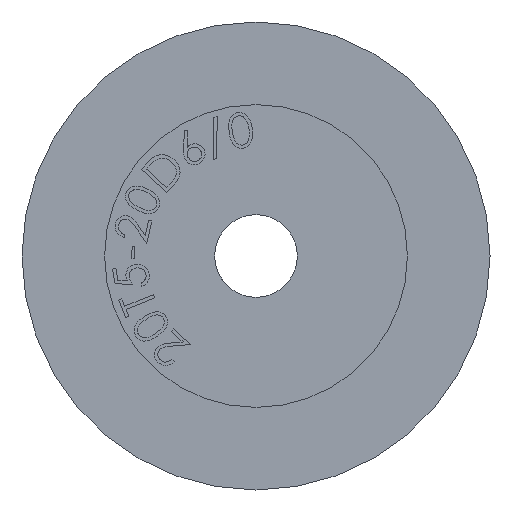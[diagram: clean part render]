
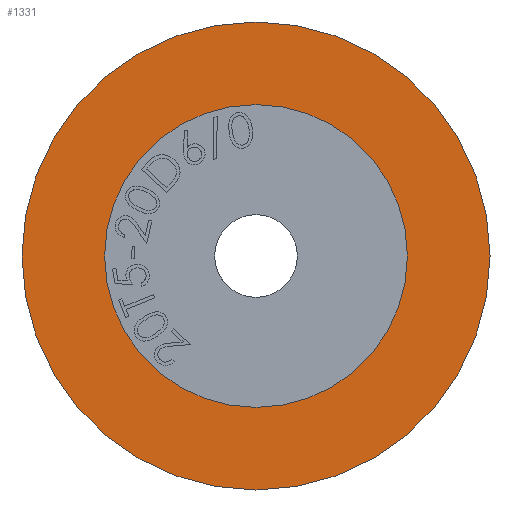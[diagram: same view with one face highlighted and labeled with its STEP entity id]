
A CAD part, left-side view. The second image highlights one B-rep face of the part: STEP entity #1331.
In plain terms, the highlighted planar face has unit normal (-1, 0, 0).
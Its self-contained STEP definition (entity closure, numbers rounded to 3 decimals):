
#740 = AXIS2_PLACEMENT_3D ( 'NONE', #18533, #2281, #1865 ) ;
#1331 = ADVANCED_FACE ( 'NONE', ( #9049, #17656 ), #6339, .T. ) ;
#1413 = CIRCLE ( 'NONE', #740, 11. ) ;
#1842 = CARTESIAN_POINT ( 'NONE',  ( 1., 0., 0. ) ) ;
#1864 = VERTEX_POINT ( 'NONE', #7162 ) ;
#1865 = DIRECTION ( 'NONE',  ( 0., 0., 1. ) ) ;
#2115 = ORIENTED_EDGE ( 'NONE', *, *, #14683, .T. ) ;
#2281 = DIRECTION ( 'NONE',  ( 1., 0., 0. ) ) ;
#3801 = CIRCLE ( 'NONE', #16091, 17. ) ;
#3878 = VERTEX_POINT ( 'NONE', #20315 ) ;
#5300 = EDGE_CURVE ( 'NONE', #14985, #17813, #18338, .T. ) ;
#6339 = PLANE ( 'NONE',  #9388 ) ;
#6784 = DIRECTION ( 'NONE',  ( -1., 0., 0. ) ) ;
#7162 = CARTESIAN_POINT ( 'NONE',  ( 1., 0., -11. ) ) ;
#8042 = DIRECTION ( 'NONE',  ( 0., 0., 1. ) ) ;
#9049 = FACE_OUTER_BOUND ( 'NONE', #11223, .T. ) ;
#9062 = CARTESIAN_POINT ( 'NONE',  ( 1., 0., -17. ) ) ;
#9156 = CARTESIAN_POINT ( 'NONE',  ( 1., 0., 0. ) ) ;
#9388 = AXIS2_PLACEMENT_3D ( 'NONE', #9156, #12351, #14065 ) ;
#9634 = DIRECTION ( 'NONE',  ( -1., 0., 0. ) ) ;
#11223 = EDGE_LOOP ( 'NONE', ( #14627, #2115 ) ) ;
#11279 = DIRECTION ( 'NONE',  ( 1., 0., 0. ) ) ;
#11451 = CARTESIAN_POINT ( 'NONE',  ( 1., 0., 0. ) ) ;
#12247 = EDGE_LOOP ( 'NONE', ( #12641, #18817 ) ) ;
#12351 = DIRECTION ( 'NONE',  ( -1., 0., 0. ) ) ;
#12641 = ORIENTED_EDGE ( 'NONE', *, *, #15321, .T. ) ;
#13049 = CIRCLE ( 'NONE', #20217, 11. ) ;
#14065 = DIRECTION ( 'NONE',  ( 0., 0., 1. ) ) ;
#14277 = CARTESIAN_POINT ( 'NONE',  ( 1., 0., 0. ) ) ;
#14570 = AXIS2_PLACEMENT_3D ( 'NONE', #1842, #6784, #16926 ) ;
#14627 = ORIENTED_EDGE ( 'NONE', *, *, #5300, .T. ) ;
#14683 = EDGE_CURVE ( 'NONE', #17813, #14985, #3801, .T. ) ;
#14985 = VERTEX_POINT ( 'NONE', #15708 ) ;
#15321 = EDGE_CURVE ( 'NONE', #3878, #1864, #1413, .T. ) ;
#15708 = CARTESIAN_POINT ( 'NONE',  ( 1., 0., 17. ) ) ;
#16091 = AXIS2_PLACEMENT_3D ( 'NONE', #11451, #9634, #8042 ) ;
#16671 = EDGE_CURVE ( 'NONE', #1864, #3878, #13049, .T. ) ;
#16926 = DIRECTION ( 'NONE',  ( 0., 0., 1. ) ) ;
#17656 = FACE_BOUND ( 'NONE', #12247, .T. ) ;
#17786 = DIRECTION ( 'NONE',  ( 0., 0., 1. ) ) ;
#17813 = VERTEX_POINT ( 'NONE', #9062 ) ;
#18338 = CIRCLE ( 'NONE', #14570, 17. ) ;
#18533 = CARTESIAN_POINT ( 'NONE',  ( 1., 0., 0. ) ) ;
#18817 = ORIENTED_EDGE ( 'NONE', *, *, #16671, .T. ) ;
#20217 = AXIS2_PLACEMENT_3D ( 'NONE', #14277, #11279, #17786 ) ;
#20315 = CARTESIAN_POINT ( 'NONE',  ( 1., 0., 11. ) ) ;
